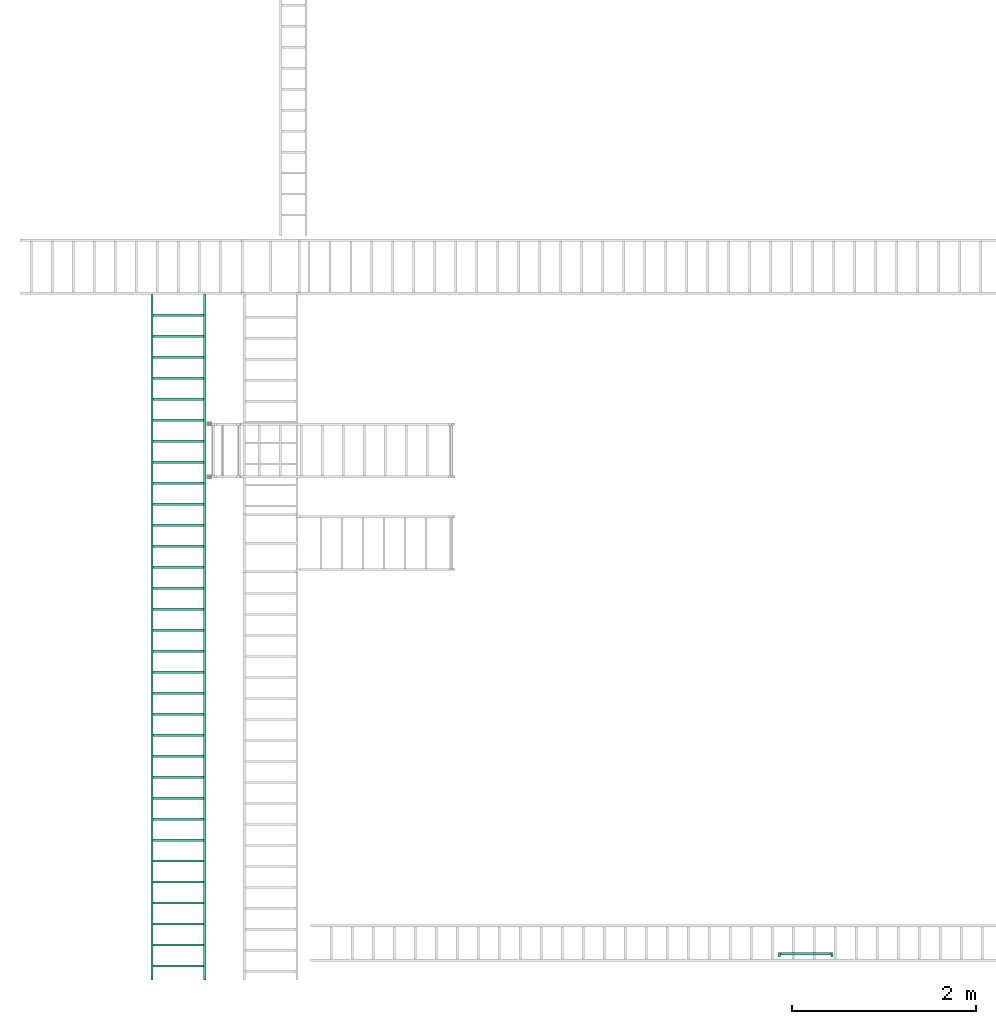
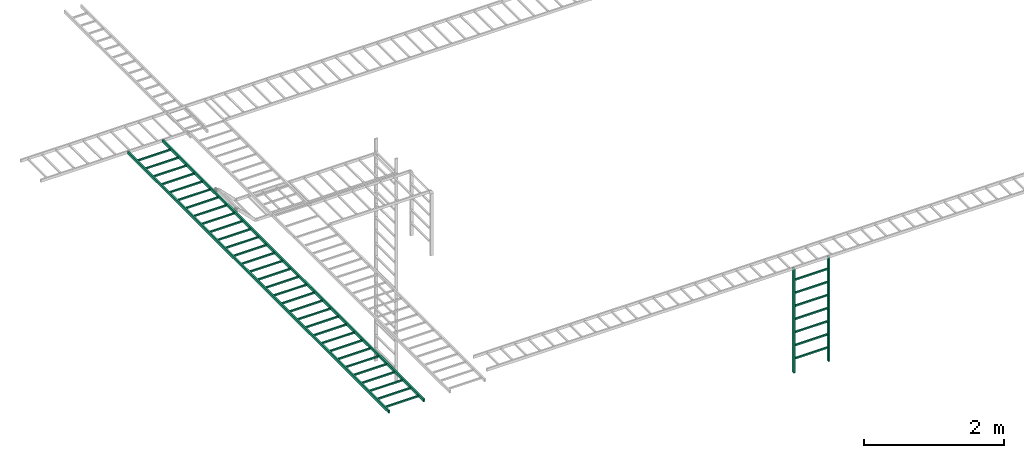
# One storey, part 3 of 6: 2 flow segments.
"""IFC2X3 building model written with IfcOpenShell, lengths in millimetres."""

from ifc_helpers import new_model, entity, si_unit, converted_unit, derived_unit, direction, frame, origin_with_axes, place, context, subcontext, project, spatial, open_shell, faceted_brep, surface_model, source, transform, mapped, type_object, element, save


model = new_model("IFC2X3")

# Units and contexts
model_context = context("Model", 3, precision=0.01, world=frame((0.0, 4.29681676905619e-09, 0.0)), true_north=direction((4.01073788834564e-13, 1.0)))
plan_context = context("Plan", 3, precision=0.01, world=frame((0.0, 4.29681676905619e-09, 0.0)), true_north=direction((4.01073788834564e-13, 1.0)))
body_context = subcontext(model_context, "Body", "Model", "MODEL_VIEW")
ifc_project = project(units=[converted_unit("PLANEANGLEUNIT", "DEGREE", entity("IfcPositiveLengthMeasure", 0.0174532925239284), si_unit("PLANEANGLEUNIT", "RADIAN"), dimensions=[0, 0, 0, 0, 0, 0, 0]), si_unit("AREAUNIT", "SQUARE_METRE"), si_unit("LENGTHUNIT", "METRE", prefix="MILLI"), si_unit("MASSUNIT", "GRAM", prefix="KILO"), si_unit("POWERUNIT", "WATT"), si_unit("PRESSUREUNIT", "PASCAL", prefix="KILO"), si_unit("FORCEUNIT", "NEWTON", prefix="KILO"), si_unit("ELECTRICVOLTAGEUNIT", "VOLT"), si_unit("ELECTRICCURRENTUNIT", "AMPERE"), si_unit("THERMODYNAMICTEMPERATUREUNIT", "DEGREE_CELSIUS"), si_unit("TIMEUNIT", "SECOND"), si_unit("VOLUMEUNIT", "CUBIC_METRE"), derived_unit("LINEARVELOCITYUNIT", [(si_unit("LENGTHUNIT", "METRE"), 1), (si_unit("TIMEUNIT", "SECOND"), -1)]), derived_unit("VOLUMETRICFLOWRATEUNIT", [(si_unit("VOLUMEUNIT", "CUBIC_METRE"), 1), (si_unit("TIMEUNIT", "SECOND"), -1)]), derived_unit("THERMALTRANSMITTANCEUNIT", [(si_unit("POWERUNIT", "WATT"), 1), (si_unit("THERMODYNAMICTEMPERATUREUNIT", "KELVIN"), -1), (si_unit("AREAUNIT", "SQUARE_METRE"), -1)]), derived_unit("SOUNDPRESSUREUNIT", [(si_unit("PRESSUREUNIT", "PASCAL"), 1)])], contexts=[model_context, plan_context])

# Site, building, storey
site_placement = place(None, frame((0.0, -4.29681676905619e-09, 0.0), z_axis=(0.0, 0.0, 1.0), x_axis=(1.0, 0.0, 0.0)))
site = spatial("IfcSite", under=ifc_project, at=site_placement, Name="ENGM", CompositionType="ELEMENT")
building_placement = place(site_placement, frame((0.0, 4.29681676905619e-09, 0.0), z_axis=(0.0, 0.0, 1.0), x_axis=(1.0, 0.0, 0.0)))
building = spatial("IfcBuilding", under=site, at=building_placement, Name="TS", CompositionType="ELEMENT")
storey_placement = place(building_placement, frame((0.0, 0.0, 210900.0), z_axis=(0.0, 0.0, 1.0), x_axis=(1.0, 0.0, 0.0)))
storey = spatial("IfcBuildingStorey", under=building, at=storey_placement, Name="Nivå F", CompositionType="ELEMENT", Elevation=210900.0)

# Flow segments
cable_carrier_segment_type = type_object("IfcCableCarrierSegmentType", Name="Kabelbro", PredefinedType="CABLELADDERSEGMENT")
shared_shape = source(origin_with_axes(), body_context, "Body", "SurfaceModel", [
    surface_model("IfcShellBasedSurfaceModel", [(215.89999, -274.60001, 0.4), (215.89999, -274.60001, -25.0), (241.30001, -274.60001, -25.0), (241.30001, -274.60001, 0.4), (241.30001, 274.60001, -25.0), (215.89999, 274.60001, -25.0), (215.89999, 274.60001, 0.4), (241.30001, 274.60001, 0.4), (444.50001, -274.60001, 0.4), (444.50001, -274.60001, -25.0), (469.89999, -274.60001, -25.0), (469.89999, -274.60001, 0.4), (469.89999, 274.60001, -25.0), (444.50001, 274.60001, -25.0), (444.50001, 274.60001, 0.4), (469.89999, 274.60001, 0.4), (673.09998, -274.60001, 0.4), (673.09998, -274.60001, -25.0), (698.50002, -274.60001, -25.0), (698.50002, -274.60001, 0.4), (698.50002, 274.60001, -25.0), (673.09998, 274.60001, -25.0), (673.09998, 274.60001, 0.4), (698.50002, 274.60001, 0.4), (901.69998, -274.60001, 0.4), (901.69998, -274.60001, -25.0), (927.10002, -274.60001, -25.0), (927.10002, -274.60001, 0.4), (927.10002, 274.60001, -25.0), (901.69998, 274.60001, -25.0), (901.69998, 274.60001, 0.4), (927.10002, 274.60001, 0.4), (1130.29998, -274.60001, 0.4), (1130.29998, -274.60001, -25.0), (1155.70002, -274.60001, -25.0), (1155.70002, -274.60001, 0.4), (1155.70002, 274.60001, -25.0), (1130.29998, 274.60001, -25.0), (1130.29998, 274.60001, 0.4), (1155.70002, 274.60001, 0.4), (1358.90005, -274.60001, 0.4), (1358.90005, -274.60001, -25.0), (1384.29995, -274.60001, -25.0), (1384.29995, -274.60001, 0.4), (1384.29995, 274.60001, -25.0), (1358.90005, 274.60001, -25.0), (1358.90005, 274.60001, 0.4), (1384.29995, 274.60001, 0.4), (1587.50005, -274.60001, 0.4), (1587.50005, -274.60001, -25.0), (1612.89995, -274.60001, -25.0), (1612.89995, -274.60001, 0.4), (1612.89995, 274.60001, -25.0), (1587.50005, 274.60001, -25.0), (1587.50005, 274.60001, 0.4), (1612.89995, 274.60001, 0.4), (0.0, -274.60001, -25.0), (0.0, -300.0, -25.0), (0.0, -300.0, 25.0), (0.0, -274.60001, 25.0), (0.0, 300.0, -25.0), (0.0, 274.60001, -25.0), (0.0, 274.60001, 25.0), (0.0, 300.0, 25.0), (1819.99996, -274.60001, -25.0), (1819.99996, -274.60001, 25.0), (1819.99996, -300.0, 25.0), (1819.99996, -300.0, -25.0), (1819.99996, 300.0, -25.0), (1819.99996, 300.0, 25.0), (1819.99996, 274.60001, 25.0), (1819.99996, 274.60001, -25.0)], [open_shell([[[0, 1, 2]], [[2, 3, 0]], [[4, 5, 6]], [[6, 7, 4]], [[3, 2, 7]], [[4, 7, 2]], [[0, 3, 6]], [[7, 6, 3]], [[1, 0, 5]], [[6, 5, 0]], [[2, 1, 4]], [[5, 4, 1]], [[8, 9, 10]], [[10, 11, 8]], [[12, 13, 14]], [[14, 15, 12]], [[11, 10, 15]], [[12, 15, 10]], [[8, 11, 14]], [[15, 14, 11]], [[9, 8, 13]], [[14, 13, 8]], [[10, 9, 12]], [[13, 12, 9]], [[16, 17, 18]], [[18, 19, 16]], [[20, 21, 22]], [[22, 23, 20]], [[19, 18, 23]], [[20, 23, 18]], [[16, 19, 22]], [[23, 22, 19]], [[17, 16, 21]], [[22, 21, 16]], [[18, 17, 20]], [[21, 20, 17]], [[24, 25, 26]], [[26, 27, 24]], [[28, 29, 30]], [[30, 31, 28]], [[27, 26, 31]], [[28, 31, 26]], [[24, 27, 30]], [[31, 30, 27]], [[25, 24, 29]], [[30, 29, 24]], [[26, 25, 28]], [[29, 28, 25]], [[32, 33, 34]], [[34, 35, 32]], [[36, 37, 38]], [[38, 39, 36]], [[35, 34, 39]], [[36, 39, 34]], [[32, 35, 38]], [[39, 38, 35]], [[33, 32, 37]], [[38, 37, 32]], [[34, 33, 36]], [[37, 36, 33]], [[40, 41, 42]], [[42, 43, 40]], [[44, 45, 46]], [[46, 47, 44]], [[43, 42, 47]], [[44, 47, 42]], [[40, 43, 46]], [[47, 46, 43]], [[41, 40, 45]], [[46, 45, 40]], [[42, 41, 44]], [[45, 44, 41]], [[48, 49, 50]], [[50, 51, 48]], [[52, 53, 54]], [[54, 55, 52]], [[51, 50, 55]], [[52, 55, 50]], [[48, 51, 54]], [[55, 54, 51]], [[49, 48, 53]], [[54, 53, 48]], [[50, 49, 52]], [[53, 52, 49]], [[56, 57, 58]], [[58, 59, 56]], [[60, 61, 62]], [[62, 63, 60]], [[64, 65, 66]], [[66, 67, 64]], [[68, 69, 70]], [[70, 71, 68]], [[58, 57, 66]], [[67, 66, 57]], [[59, 58, 65]], [[66, 65, 58]], [[56, 59, 64]], [[65, 64, 59]], [[57, 56, 67]], [[64, 67, 56]], [[60, 63, 68]], [[69, 68, 63]], [[61, 60, 71]], [[68, 71, 60]], [[62, 61, 70]], [[71, 70, 61]], [[63, 62, 69]], [[70, 69, 62]]])]),
])
flow_segment_1_placement = place(storey_placement, frame((722992.76768, 434771.80963, 2060.0), z_axis=(0.0, -1.0, 0.0), x_axis=(0.0, 0.0, 1.0)))
element("IfcFlowSegment", 1, at=flow_segment_1_placement, inside=storey, type_object=cable_carrier_segment_type, Name="Kabelbro", context=body_context, shape_type="MappedRepresentation", body=[
    mapped(shared_shape, transform((0.0, 0.0, 0.0), scale=1.0)),
])
flow_segment_2_placement = place(storey_placement, frame((716162.96547, 441966.22699, 3925.0), z_axis=(0.0, 0.0, 1.0), x_axis=(0.0, -1.0, 0.0)))
element("IfcFlowSegment", 2, at=flow_segment_2_placement, inside=storey, type_object=cable_carrier_segment_type, Name="Kabelbro", context=body_context, shape_type="Brep", body=[
    faceted_brep([(241.30001, 274.60001, 0.4), (241.30001, -274.60001, -25.0), (241.30001, -274.60001, 0.4), (241.30001, 274.60001, -25.0), (215.89999, 274.60001, 0.4), (215.89999, -274.60001, 0.4), (215.89999, 274.60001, -25.0), (215.89999, -274.60001, -25.0), (469.89999, 274.60001, 0.4), (469.89999, -274.60001, -25.0), (469.89999, -274.60001, 0.4), (469.89999, 274.60001, -25.0), (444.50001, 274.60001, 0.4), (444.50001, -274.60001, 0.4), (444.50001, 274.60001, -25.0), (444.50001, -274.60001, -25.0), (698.50002, 274.60001, 0.4), (698.50002, -274.60001, -25.0), (698.50002, -274.60001, 0.4), (698.50002, 274.60001, -25.0), (673.09998, 274.60001, 0.4), (673.09998, -274.60001, 0.4), (673.09998, 274.60001, -25.0), (673.09998, -274.60001, -25.0), (927.10002, 274.60001, 0.4), (927.10002, -274.60001, -25.0), (927.10002, -274.60001, 0.4), (927.10002, 274.60001, -25.0), (901.69998, 274.60001, 0.4), (901.69998, -274.60001, 0.4), (901.69998, 274.60001, -25.0), (901.69998, -274.60001, -25.0), (1155.70002, 274.60001, 0.4), (1155.70002, -274.60001, -25.0), (1155.70002, -274.60001, 0.4), (1155.70002, 274.60001, -25.0), (1130.29998, 274.60001, 0.4), (1130.29998, -274.60001, 0.4), (1130.29998, 274.60001, -25.0), (1130.29998, -274.60001, -25.0), (1384.29995, 274.60001, 0.4), (1384.29995, -274.60001, -25.0), (1384.29995, -274.60001, 0.4), (1384.29995, 274.60001, -25.0), (1358.90005, 274.60001, 0.4), (1358.90005, -274.60001, 0.4), (1358.90005, 274.60001, -25.0), (1358.90005, -274.60001, -25.0), (1612.89995, 274.60001, 0.4), (1612.89995, -274.60001, -25.0), (1612.89995, -274.60001, 0.4), (1612.89995, 274.60001, -25.0), (1587.50005, 274.60001, 0.4), (1587.50005, -274.60001, 0.4), (1587.50005, 274.60001, -25.0), (1587.50005, -274.60001, -25.0), (1841.49995, 274.60001, 0.4), (1841.49995, -274.60001, -25.0), (1841.49995, -274.60001, 0.4), (1841.49995, 274.60001, -25.0), (1816.10005, 274.60001, 0.4), (1816.10005, -274.60001, 0.4), (1816.10005, 274.60001, -25.0), (1816.10005, -274.60001, -25.0), (2070.09995, 274.60001, 0.4), (2070.09995, -274.60001, -25.0), (2070.09995, -274.60001, 0.4), (2070.09995, 274.60001, -25.0), (2044.70005, 274.60001, 0.4), (2044.70005, -274.60001, 0.4), (2044.70005, 274.60001, -25.0), (2044.70005, -274.60001, -25.0), (2298.69995, 274.60001, 0.4), (2298.69995, -274.60001, -25.0), (2298.69995, -274.60001, 0.4), (2298.69995, 274.60001, -25.0), (2273.30005, 274.60001, 0.4), (2273.30005, -274.60001, 0.4), (2273.30005, 274.60001, -25.0), (2273.30005, -274.60001, -25.0), (2527.3001, 274.60001, 0.4), (2527.3001, -274.60001, -25.0), (2527.3001, -274.60001, 0.4), (2527.3001, 274.60001, -25.0), (2501.8999, 274.60001, 0.4), (2501.8999, -274.60001, 0.4), (2501.8999, 274.60001, -25.0), (2501.8999, -274.60001, -25.0), (2755.9001, 274.60001, 0.4), (2755.9001, -274.60001, -25.0), (2755.9001, -274.60001, 0.4), (2755.9001, 274.60001, -25.0), (2730.4999, 274.60001, 0.4), (2730.4999, -274.60001, 0.4), (2730.4999, 274.60001, -25.0), (2730.4999, -274.60001, -25.0), (2984.5001, 274.60001, 0.4), (2984.5001, -274.60001, -25.0), (2984.5001, -274.60001, 0.4), (2984.5001, 274.60001, -25.0), (2959.0999, 274.60001, 0.4), (2959.0999, -274.60001, 0.4), (2959.0999, 274.60001, -25.0), (2959.0999, -274.60001, -25.0), (3213.1001, 274.60001, 0.4), (3213.1001, -274.60001, -25.0), (3213.1001, -274.60001, 0.4), (3213.1001, 274.60001, -25.0), (3187.6999, 274.60001, 0.4), (3187.6999, -274.60001, 0.4), (3187.6999, 274.60001, -25.0), (3187.6999, -274.60001, -25.0), (3441.7001, 274.60001, 0.4), (3441.7001, -274.60001, -25.0), (3441.7001, -274.60001, 0.4), (3441.7001, 274.60001, -25.0), (3416.2999, 274.60001, 0.4), (3416.2999, -274.60001, 0.4), (3416.2999, 274.60001, -25.0), (3416.2999, -274.60001, -25.0), (3670.3001, 274.60001, 0.4), (3670.3001, -274.60001, -25.0), (3670.3001, -274.60001, 0.4), (3670.3001, 274.60001, -25.0), (3644.8999, 274.60001, 0.4), (3644.8999, -274.60001, 0.4), (3644.8999, 274.60001, -25.0), (3644.8999, -274.60001, -25.0), (3898.9001, 274.60001, 0.4), (3898.9001, -274.60001, -25.0), (3898.9001, -274.60001, 0.4), (3898.9001, 274.60001, -25.0), (3873.4999, 274.60001, 0.4), (3873.4999, -274.60001, 0.4), (3873.4999, 274.60001, -25.0), (3873.4999, -274.60001, -25.0), (4127.5001, 274.60001, 0.4), (4127.5001, -274.60001, -25.0), (4127.5001, -274.60001, 0.4), (4127.5001, 274.60001, -25.0), (4102.0999, 274.60001, 0.4), (4102.0999, -274.60001, 0.4), (4102.0999, 274.60001, -25.0), (4102.0999, -274.60001, -25.0), (4356.1001, 274.60001, 0.4), (4356.1001, -274.60001, -25.0), (4356.1001, -274.60001, 0.4), (4356.1001, 274.60001, -25.0), (4330.6999, 274.60001, 0.4), (4330.6999, -274.60001, 0.4), (4330.6999, 274.60001, -25.0), (4330.6999, -274.60001, -25.0), (4584.7001, 274.60001, 0.4), (4584.7001, -274.60001, -25.0), (4584.7001, -274.60001, 0.4), (4584.7001, 274.60001, -25.0), (4559.2999, 274.60001, 0.4), (4559.2999, -274.60001, 0.4), (4559.2999, 274.60001, -25.0), (4559.2999, -274.60001, -25.0), (4813.3001, 274.60001, 0.4), (4813.3001, -274.60001, -25.0), (4813.3001, -274.60001, 0.4), (4813.3001, 274.60001, -25.0), (4787.8999, 274.60001, 0.4), (4787.8999, -274.60001, 0.4), (4787.8999, 274.60001, -25.0), (4787.8999, -274.60001, -25.0), (5041.89981, 274.60001, 0.4), (5041.89981, -274.60001, -25.0), (5041.89981, -274.60001, 0.4), (5041.89981, 274.60001, -25.0), (5016.50019, 274.60001, 0.4), (5016.50019, -274.60001, 0.4), (5016.50019, 274.60001, -25.0), (5016.50019, -274.60001, -25.0), (5270.49981, 274.60001, 0.4), (5270.49981, -274.60001, -25.0), (5270.49981, -274.60001, 0.4), (5270.49981, 274.60001, -25.0), (5245.10019, 274.60001, 0.4), (5245.10019, -274.60001, 0.4), (5245.10019, 274.60001, -25.0), (5245.10019, -274.60001, -25.0), (5499.09981, 274.60001, 0.4), (5499.09981, -274.60001, -25.0), (5499.09981, -274.60001, 0.4), (5499.09981, 274.60001, -25.0), (5473.70019, 274.60001, 0.4), (5473.70019, -274.60001, 0.4), (5473.70019, 274.60001, -25.0), (5473.70019, -274.60001, -25.0), (5727.69981, 274.60001, 0.4), (5727.69981, -274.60001, -25.0), (5727.69981, -274.60001, 0.4), (5727.69981, 274.60001, -25.0), (5702.30019, 274.60001, 0.4), (5702.30019, -274.60001, 0.4), (5702.30019, 274.60001, -25.0), (5702.30019, -274.60001, -25.0), (5956.29981, 274.60001, 0.4), (5956.29981, -274.60001, -25.0), (5956.29981, -274.60001, 0.4), (5956.29981, 274.60001, -25.0), (5930.90019, 274.60001, 0.4), (5930.90019, -274.60001, 0.4), (5930.90019, 274.60001, -25.0), (5930.90019, -274.60001, -25.0), (6184.89981, 274.60001, 0.4), (6184.89981, -274.60001, -25.0), (6184.89981, -274.60001, 0.4), (6184.89981, 274.60001, -25.0), (6159.50019, 274.60001, 0.4), (6159.50019, -274.60001, 0.4), (6159.50019, 274.60001, -25.0), (6159.50019, -274.60001, -25.0), (6413.49981, 274.60001, 0.4), (6413.49981, -274.60001, -25.0), (6413.49981, -274.60001, 0.4), (6413.49981, 274.60001, -25.0), (6388.10019, 274.60001, 0.4), (6388.10019, -274.60001, 0.4), (6388.10019, 274.60001, -25.0), (6388.10019, -274.60001, -25.0), (6642.09981, 274.60001, 0.4), (6642.09981, -274.60001, -25.0), (6642.09981, -274.60001, 0.4), (6642.09981, 274.60001, -25.0), (6616.70019, 274.60001, 0.4), (6616.70019, -274.60001, 0.4), (6616.70019, 274.60001, -25.0), (6616.70019, -274.60001, -25.0), (6870.69981, 274.60001, 0.4), (6870.69981, -274.60001, -25.0), (6870.69981, -274.60001, 0.4), (6870.69981, 274.60001, -25.0), (6845.30019, 274.60001, 0.4), (6845.30019, -274.60001, 0.4), (6845.30019, 274.60001, -25.0), (6845.30019, -274.60001, -25.0), (7099.29981, 274.60001, 0.4), (7099.29981, -274.60001, -25.0), (7099.29981, -274.60001, 0.4), (7099.29981, 274.60001, -25.0), (7073.90019, 274.60001, 0.4), (7073.90019, -274.60001, 0.4), (7073.90019, 274.60001, -25.0), (7073.90019, -274.60001, -25.0), (7327.89981, 274.60001, 0.4), (7327.89981, -274.60001, -25.0), (7327.89981, -274.60001, 0.4), (7327.89981, 274.60001, -25.0), (7302.50019, 274.60001, 0.4), (7302.50019, -274.60001, 0.4), (7302.50019, 274.60001, -25.0), (7302.50019, -274.60001, -25.0), (0.0, -300.0, -25.0), (0.0, -274.60001, -25.0), (0.0, -300.0, 25.0), (0.0, -274.60001, 25.0), (0.0, 274.60001, -25.0), (0.0, 300.0, -25.0), (0.0, 274.60001, 25.0), (0.0, 300.0, 25.0), (7467.21900119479, -300.0, 25.0), (7467.21900119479, -300.0, 20.421040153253), (7467.21900119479, -300.0, -25.0), (7467.21900119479, -297.673889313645, 25.0), (7467.21900119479, -274.60001, 25.0), (7467.21900119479, -274.60001, -25.0), (7467.21900119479, -274.60001, -20.421040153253), (7467.21900119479, -276.926120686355, -25.0), (7467.21900119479, 300.0, -25.0), (7467.21900119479, 300.0, -20.421040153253), (7467.21900119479, 300.0, 25.0), (7467.21900119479, 297.673889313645, -25.0), (7467.21900119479, 274.60001, -25.0), (7467.21900119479, 274.60001, 25.0), (7467.21900119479, 274.60001, 20.421040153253), (7467.21900119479, 276.926120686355, 25.0)], [[[0, 1, 2]], [[1, 0, 3]], [[4, 2, 5]], [[2, 4, 0]], [[6, 5, 7]], [[5, 6, 4]], [[3, 7, 1]], [[7, 3, 6]], [[8, 9, 10]], [[9, 8, 11]], [[12, 10, 13]], [[10, 12, 8]], [[14, 13, 15]], [[13, 14, 12]], [[11, 15, 9]], [[15, 11, 14]], [[16, 17, 18]], [[17, 16, 19]], [[20, 18, 21]], [[18, 20, 16]], [[22, 21, 23]], [[21, 22, 20]], [[19, 23, 17]], [[23, 19, 22]], [[24, 25, 26]], [[25, 24, 27]], [[28, 26, 29]], [[26, 28, 24]], [[30, 29, 31]], [[29, 30, 28]], [[27, 31, 25]], [[31, 27, 30]], [[32, 33, 34]], [[33, 32, 35]], [[36, 34, 37]], [[34, 36, 32]], [[38, 37, 39]], [[37, 38, 36]], [[35, 39, 33]], [[39, 35, 38]], [[40, 41, 42]], [[41, 40, 43]], [[44, 42, 45]], [[42, 44, 40]], [[46, 45, 47]], [[45, 46, 44]], [[43, 47, 41]], [[47, 43, 46]], [[48, 49, 50]], [[49, 48, 51]], [[52, 50, 53]], [[50, 52, 48]], [[54, 53, 55]], [[53, 54, 52]], [[51, 55, 49]], [[55, 51, 54]], [[56, 57, 58]], [[57, 56, 59]], [[60, 58, 61]], [[58, 60, 56]], [[62, 61, 63]], [[61, 62, 60]], [[59, 63, 57]], [[63, 59, 62]], [[64, 65, 66]], [[65, 64, 67]], [[68, 66, 69]], [[66, 68, 64]], [[70, 69, 71]], [[69, 70, 68]], [[67, 71, 65]], [[71, 67, 70]], [[72, 73, 74]], [[73, 72, 75]], [[76, 74, 77]], [[74, 76, 72]], [[78, 77, 79]], [[77, 78, 76]], [[75, 79, 73]], [[79, 75, 78]], [[80, 81, 82]], [[81, 80, 83]], [[84, 82, 85]], [[82, 84, 80]], [[86, 85, 87]], [[85, 86, 84]], [[83, 87, 81]], [[87, 83, 86]], [[88, 89, 90]], [[89, 88, 91]], [[92, 90, 93]], [[90, 92, 88]], [[94, 93, 95]], [[93, 94, 92]], [[91, 95, 89]], [[95, 91, 94]], [[96, 97, 98]], [[97, 96, 99]], [[100, 98, 101]], [[98, 100, 96]], [[102, 101, 103]], [[101, 102, 100]], [[99, 103, 97]], [[103, 99, 102]], [[104, 105, 106]], [[105, 104, 107]], [[108, 106, 109]], [[106, 108, 104]], [[110, 109, 111]], [[109, 110, 108]], [[107, 111, 105]], [[111, 107, 110]], [[112, 113, 114]], [[113, 112, 115]], [[116, 114, 117]], [[114, 116, 112]], [[118, 117, 119]], [[117, 118, 116]], [[115, 119, 113]], [[119, 115, 118]], [[120, 121, 122]], [[121, 120, 123]], [[124, 122, 125]], [[122, 124, 120]], [[126, 125, 127]], [[125, 126, 124]], [[123, 127, 121]], [[127, 123, 126]], [[128, 129, 130]], [[129, 128, 131]], [[132, 130, 133]], [[130, 132, 128]], [[134, 133, 135]], [[133, 134, 132]], [[131, 135, 129]], [[135, 131, 134]], [[136, 137, 138]], [[137, 136, 139]], [[140, 138, 141]], [[138, 140, 136]], [[142, 141, 143]], [[141, 142, 140]], [[139, 143, 137]], [[143, 139, 142]], [[144, 145, 146]], [[145, 144, 147]], [[148, 146, 149]], [[146, 148, 144]], [[150, 149, 151]], [[149, 150, 148]], [[147, 151, 145]], [[151, 147, 150]], [[152, 153, 154]], [[153, 152, 155]], [[156, 154, 157]], [[154, 156, 152]], [[158, 157, 159]], [[157, 158, 156]], [[155, 159, 153]], [[159, 155, 158]], [[160, 161, 162]], [[161, 160, 163]], [[164, 162, 165]], [[162, 164, 160]], [[166, 165, 167]], [[165, 166, 164]], [[163, 167, 161]], [[167, 163, 166]], [[168, 169, 170]], [[169, 168, 171]], [[172, 170, 173]], [[170, 172, 168]], [[174, 173, 175]], [[173, 174, 172]], [[171, 175, 169]], [[175, 171, 174]], [[176, 177, 178]], [[177, 176, 179]], [[180, 178, 181]], [[178, 180, 176]], [[182, 181, 183]], [[181, 182, 180]], [[179, 183, 177]], [[183, 179, 182]], [[184, 185, 186]], [[185, 184, 187]], [[188, 186, 189]], [[186, 188, 184]], [[190, 189, 191]], [[189, 190, 188]], [[187, 191, 185]], [[191, 187, 190]], [[192, 193, 194]], [[193, 192, 195]], [[196, 194, 197]], [[194, 196, 192]], [[198, 197, 199]], [[197, 198, 196]], [[195, 199, 193]], [[199, 195, 198]], [[200, 201, 202]], [[201, 200, 203]], [[204, 202, 205]], [[202, 204, 200]], [[206, 205, 207]], [[205, 206, 204]], [[203, 207, 201]], [[207, 203, 206]], [[208, 209, 210]], [[209, 208, 211]], [[212, 210, 213]], [[210, 212, 208]], [[214, 213, 215]], [[213, 214, 212]], [[211, 215, 209]], [[215, 211, 214]], [[216, 217, 218]], [[217, 216, 219]], [[220, 218, 221]], [[218, 220, 216]], [[222, 221, 223]], [[221, 222, 220]], [[219, 223, 217]], [[223, 219, 222]], [[224, 225, 226]], [[225, 224, 227]], [[228, 226, 229]], [[226, 228, 224]], [[230, 229, 231]], [[229, 230, 228]], [[227, 231, 225]], [[231, 227, 230]], [[232, 233, 234]], [[233, 232, 235]], [[236, 234, 237]], [[234, 236, 232]], [[238, 237, 239]], [[237, 238, 236]], [[235, 239, 233]], [[239, 235, 238]], [[240, 241, 242]], [[241, 240, 243]], [[244, 242, 245]], [[242, 244, 240]], [[246, 245, 247]], [[245, 246, 244]], [[243, 247, 241]], [[247, 243, 246]], [[248, 249, 250]], [[249, 248, 251]], [[252, 250, 253]], [[250, 252, 248]], [[254, 253, 255]], [[253, 254, 252]], [[251, 255, 249]], [[255, 251, 254]], [[256, 257, 258]], [[259, 258, 257]], [[260, 261, 262]], [[263, 262, 261]], [[2, 1, 7]], [[7, 5, 2]], [[6, 3, 0]], [[0, 4, 6]], [[10, 9, 15]], [[15, 13, 10]], [[14, 11, 8]], [[8, 12, 14]], [[18, 17, 23]], [[23, 21, 18]], [[22, 19, 16]], [[16, 20, 22]], [[26, 25, 31]], [[31, 29, 26]], [[30, 27, 24]], [[24, 28, 30]], [[34, 33, 39]], [[39, 37, 34]], [[38, 35, 32]], [[32, 36, 38]], [[42, 41, 47]], [[47, 45, 42]], [[46, 43, 40]], [[40, 44, 46]], [[50, 49, 55]], [[55, 53, 50]], [[54, 51, 48]], [[48, 52, 54]], [[58, 57, 63]], [[63, 61, 58]], [[62, 59, 56]], [[56, 60, 62]], [[66, 65, 71]], [[71, 69, 66]], [[70, 67, 64]], [[64, 68, 70]], [[74, 73, 79]], [[79, 77, 74]], [[78, 75, 72]], [[72, 76, 78]], [[82, 81, 87]], [[87, 85, 82]], [[86, 83, 80]], [[80, 84, 86]], [[90, 89, 95]], [[95, 93, 90]], [[94, 91, 88]], [[88, 92, 94]], [[98, 97, 103]], [[103, 101, 98]], [[102, 99, 96]], [[96, 100, 102]], [[106, 105, 111]], [[111, 109, 106]], [[110, 107, 104]], [[104, 108, 110]], [[114, 113, 119]], [[119, 117, 114]], [[118, 115, 112]], [[112, 116, 118]], [[122, 121, 127]], [[127, 125, 122]], [[126, 123, 120]], [[120, 124, 126]], [[130, 129, 135]], [[135, 133, 130]], [[134, 131, 128]], [[128, 132, 134]], [[138, 137, 143]], [[143, 141, 138]], [[142, 139, 136]], [[136, 140, 142]], [[146, 145, 151]], [[151, 149, 146]], [[150, 147, 144]], [[144, 148, 150]], [[154, 153, 159]], [[159, 157, 154]], [[158, 155, 152]], [[152, 156, 158]], [[162, 161, 167]], [[167, 165, 162]], [[166, 163, 160]], [[160, 164, 166]], [[170, 169, 175]], [[175, 173, 170]], [[174, 171, 168]], [[168, 172, 174]], [[178, 177, 183]], [[183, 181, 178]], [[182, 179, 176]], [[176, 180, 182]], [[186, 185, 191]], [[191, 189, 186]], [[190, 187, 184]], [[184, 188, 190]], [[194, 193, 199]], [[199, 197, 194]], [[198, 195, 192]], [[192, 196, 198]], [[202, 201, 207]], [[207, 205, 202]], [[206, 203, 200]], [[200, 204, 206]], [[210, 209, 215]], [[215, 213, 210]], [[214, 211, 208]], [[208, 212, 214]], [[218, 217, 223]], [[223, 221, 218]], [[222, 219, 216]], [[216, 220, 222]], [[226, 225, 231]], [[231, 229, 226]], [[230, 227, 224]], [[224, 228, 230]], [[234, 233, 239]], [[239, 237, 234]], [[238, 235, 232]], [[232, 236, 238]], [[242, 241, 247]], [[247, 245, 242]], [[246, 243, 240]], [[240, 244, 246]], [[250, 249, 255]], [[255, 253, 250]], [[254, 251, 248]], [[248, 252, 254]], [[264, 265, 256, 258]], [[265, 266, 256]], [[267, 264, 258, 259]], [[268, 267, 259]], [[269, 270, 259, 257]], [[270, 268, 259]], [[271, 269, 257, 256]], [[266, 271, 256]], [[272, 273, 263, 261]], [[273, 274, 263]], [[275, 272, 261, 260]], [[276, 275, 260]], [[277, 278, 260, 262]], [[278, 276, 260]], [[279, 277, 262, 263]], [[274, 279, 263]], [[267, 268, 270, 269, 271, 266, 265, 264]], [[275, 276, 278, 277, 279, 274, 273, 272]]], orient=[[False], [False], [False], [False], [False], [False], [False], [False], [False], [False], [False], [False], [False], [False], [False], [False], [False], [False], [False], [False], [False], [False], [False], [False], [False], [False], [False], [False], [False], [False], [False], [False], [False], [False], [False], [False], [False], [False], [False], [False], [False], [False], [False], [False], [False], [False], [False], [False], [False], [False], [False], [False], [False], [False], [False], [False], [False], [False], [False], [False], [False], [False], [False], [False], [False], [False], [False], [False], [False], [False], [False], [False], [False], [False], [False], [False], [False], [False], [False], [False], [False], [False], [False], [False], [False], [False], [False], [False], [False], [False], [False], [False], [False], [False], [False], [False], [False], [False], [False], [False], [False], [False], [False], [False], [False], [False], [False], [False], [False], [False], [False], [False], [False], [False], [False], [False], [False], [False], [False], [False], [False], [False], [False], [False], [False], [False], [False], [False], [False], [False], [False], [False], [False], [False], [False], [False], [False], [False], [False], [False], [False], [False], [False], [False], [False], [False], [False], [False], [False], [False], [False], [False], [False], [False], [False], [False], [False], [False], [False], [False], [False], [False], [False], [False], [False], [False], [False], [False], [False], [False], [False], [False], [False], [False], [False], [False], [False], [False], [False], [False], [False], [False], [False], [False], [False], [False], [False], [False], [False], [False], [False], [False], [False], [False], [False], [False], [False], [False], [False], [False], [False], [False], [False], [False], [False], [False], [False], [False], [False], [False], [False], [False], [False], [False], [False], [False], [False], [False], [False], [False], [False], [False], [False], [False], [False], [False], [False], [False], [False], [False], [False], [False], [False], [False], [False], [False], [False], [False], [False], [False], [False], [False], [False], [False], [False], [False], [False], [False], [False], [False], [False], [False], [False], [False], [False], [False], [False], [False], [False], [False], [False], [False], [False], [False], [False], [False], [False], [False], [False], [False], [False], [False], [False], [False], [False], [False], [False], [False], [False], [False], [False], [False], [False], [False], [False], [False], [False], [False], [False], [False], [False], [False], [False], [False], [False], [False], [False], [False], [False], [False], [False], [False], [False], [False], [False], [False], [False], [False], [False], [False], [False], [False], [False], [False], [False], [False], [False], [False], [False], [False], [False], [False], [False], [False], [False], [False], [False], [False], [False], [False], [False], [False], [False], [False], [False], [False], [False], [False], [False], [False], [False], [False], [False], [False], [False], [False], [False], [False], [False], [False], [False], [False], [False], [False], [False], [False], [False], [False], [False], [False], [False], [False], [False], [False], [False], [False], [False], [False], [False], [False], [False], [False], [False], [False], [False], [False], [False], [False], [False], [False], [False], [False], [False], [False], [False], [False], [False], [False], [False], [False], [False], [False], [False], [False], [False], [False], [False], [False], [False], [False], [False], [False], [False], [False], [False], [False]]),
])

save(model, "model.ifc")
